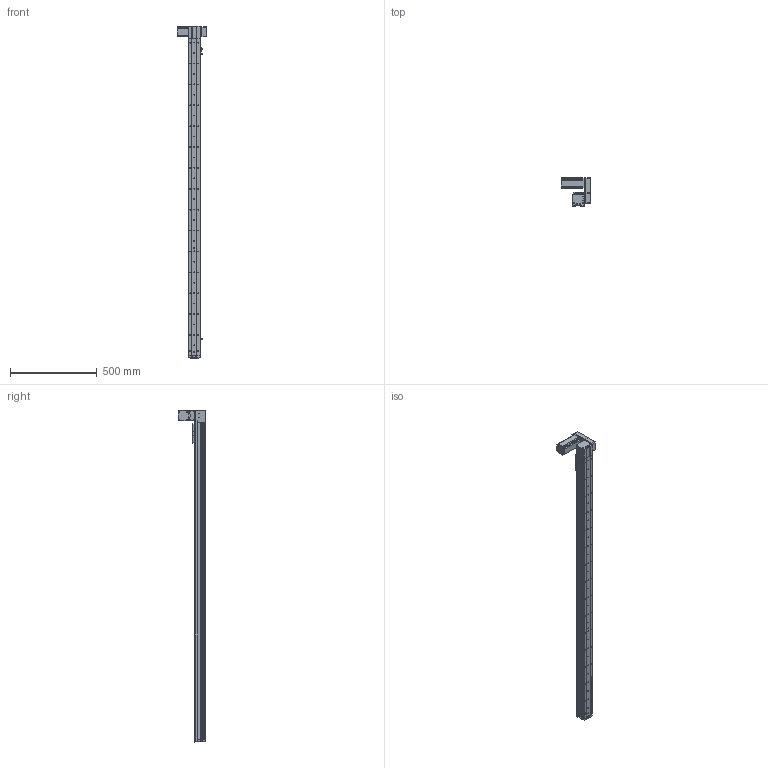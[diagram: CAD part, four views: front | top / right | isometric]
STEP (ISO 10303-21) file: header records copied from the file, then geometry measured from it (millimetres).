
FILE_DESCRIPTION (( 'STEP AP214' ), '1' );
FILE_NAME ('KSD68BS-S1650-MLU-CR.STEP', '2019-11-07T08:30:03', ( '微软用户' ), ( '微软中国' ), 'SwSTEP 2.0', 'SolidWorks 2014', '' );
FILE_SCHEMA (( 'AUTOMOTIVE_DESIGN' ));
Length unit declared in the file: millimetre
Products named in the file (14): 68遵裔啣揤啣1; 68宽单导轨全封闭丝杆传动安装板1防护罩; KSD68BS 1650行程侧板全封闭; 68宽单导轨全封闭同步带端板; 68单导轨全封闭同步带电机座左; 68单导轨全封闭同步带安装板; 悵誘欶奻狟殏; 68宽马达安装板连板上折同步带; 感应片68宽全封闭; U倰嫖萇EEㄜSX672; 台达ECMA－C20604AS伺服电机（400W); KSD68BS 1650行程底板全封闭; KSD68BS 1650行程盖板全封闭; KSD68BS-S1650-MLU-CR
Assembly tree (17 placements, depth 2):
  KSD68BS-S1650-MLU-CR
    KSD68BS 1650行程底板全封闭
    台达ECMA－C20604AS伺服电机（400W)
    U倰嫖萇EEㄜSX672  x3
    感应片68宽全封闭
    68宽马达安装板连板上折同步带
    悵誘欶奻狟殏
    68单导轨全封闭同步带安装板
    68单导轨全封闭同步带电机座左
    68宽单导轨全封闭同步带端板
    KSD68BS 1650行程侧板全封闭  x2
    68宽单导轨全封闭丝杆传动安装板1防护罩
    68遵裔啣揤啣1  x2
    KSD68BS 1650行程盖板全封闭
Bounding box: 167.2 x 159.5 x 1908.1 mm (x, y, z)
Volume: 3412034.5 mm3; surface area: 1385175.6 mm2
Topology: 18 solids, 18 shells, 1619 faces, 4669 edges, 2974 vertices
Faces by surface type: cylinder 798, plane 629, cone 192
Entity records: 53023 total; most frequent: CARTESIAN_POINT 9269, DIRECTION 7880, ORIENTED_EDGE 7542, EDGE_CURVE 3771, AXIS2_PLACEMENT_3D 2877, VERTEX_POINT 2472, VECTOR 2126, LINE 2126
